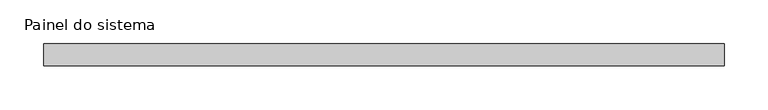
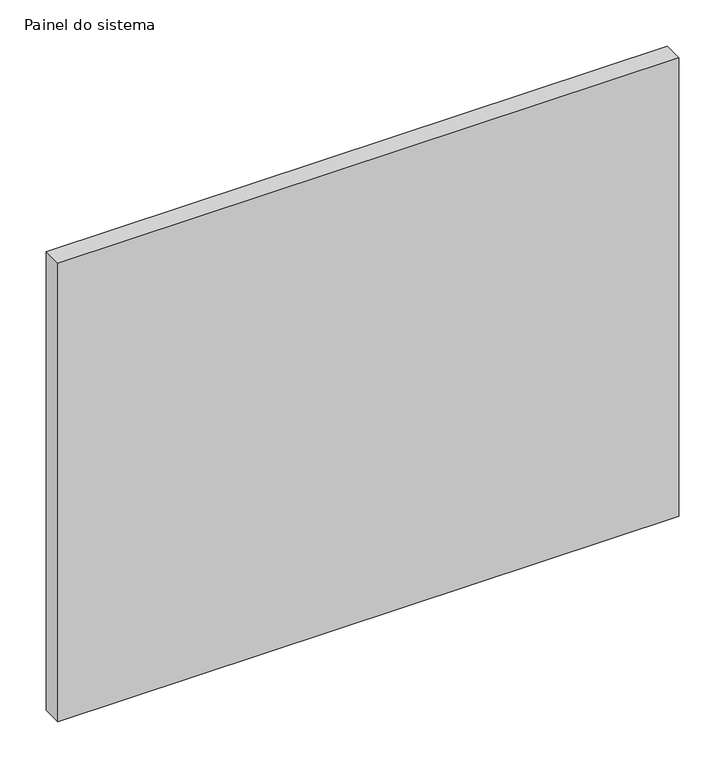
"""IFC4 building model written with IfcOpenShell, lengths in millimetres: plate geometry, Painel do sistema : Envidraçado."""

from ifc_helpers import new_model, si_unit, origin, origin_with_axes, place, context, project, spatial, polyline, outline, extrude, source, transform, mapped, element, save


def painel_do_sistema_afab45d9(model_context):
    return source(origin(), model_context, "Body", "SweptSolid", [
        extrude(outline(polyline([(387.5, 24.5), (-387.5, 24.5), (-387.5, 49.5), (387.5, 49.5), (387.5, 24.5)])), origin_with_axes(), (0.0, 0.0, 1.0), 605.0),
    ])


if __name__ == "__main__":
    model = new_model("IFC4")
    model_context = context("Model", 3, world=origin())
    ifc_project = project(units=[si_unit("LENGTHUNIT", "METRE", prefix="MILLI")], contexts=[model_context])
    site = spatial("IfcSite", under=ifc_project)
    building = spatial("IfcBuilding", under=site)
    placement = place(None, origin())
    painel_do_sistema_shape = painel_do_sistema_afab45d9(model_context)
    element("IfcPlate", 1, ObjectType="Painel do sistema : Envidraçado", at=placement, inside=building, context=model_context, shape_type="MappedRepresentation", body=[
        mapped(painel_do_sistema_shape, transform((0.0, 0.0, 0.0), x_axis=(1.0, 0.0, 0.0), y_axis=(0.0, 1.0, 0.0), z_axis=(0.0, 0.0, 1.0))),
    ])
    save(model, "model.ifc")
